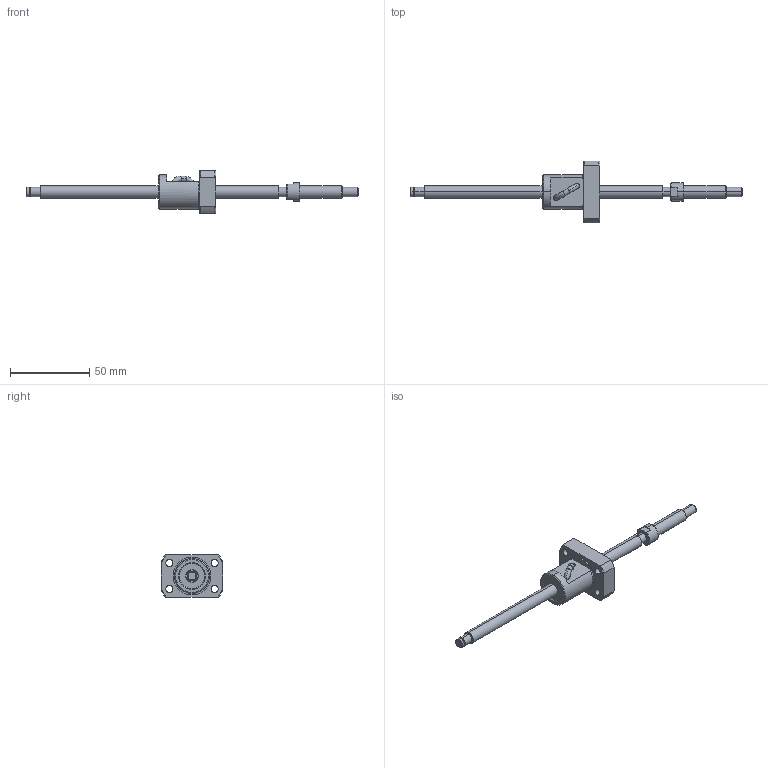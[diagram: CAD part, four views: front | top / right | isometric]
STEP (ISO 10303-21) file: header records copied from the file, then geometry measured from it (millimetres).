
FILE_DESCRIPTION (( 'STEP AP214' ), '1' );
FILE_NAME ('BS0805A-3D.STEP', '2014-03-07T16:10:01', ( '' ), ( '' ), 'SwSTEP 2.0', 'SolidWorks 2012', '' );
FILE_SCHEMA (( 'AUTOMOTIVE_DESIGN' ));
Length unit declared in the file: millimetre
Products named in the file (3): BS0805AŽ²; BS0805Aナット; BS0805A-3D
Assembly tree (2 placements, depth 2):
  BS0805A-3D
    BS0805Aナット
    BS0805AŽ²
Bounding box: 210 x 39 x 27 mm (x, y, z)
Volume: 25798.1 mm3; surface area: 13934.5 mm2
Topology: 5 solids, 5 shells, 163 faces, 405 edges, 261 vertices
Faces by surface type: cylinder 78, plane 45, cone 34, torus 4, bspline 2
Entity records: 6221 total; most frequent: CARTESIAN_POINT 2085, DIRECTION 860, ORIENTED_EDGE 806, EDGE_CURVE 403, AXIS2_PLACEMENT_3D 362, VERTEX_POINT 261, EDGE_LOOP 198, CIRCLE 196
